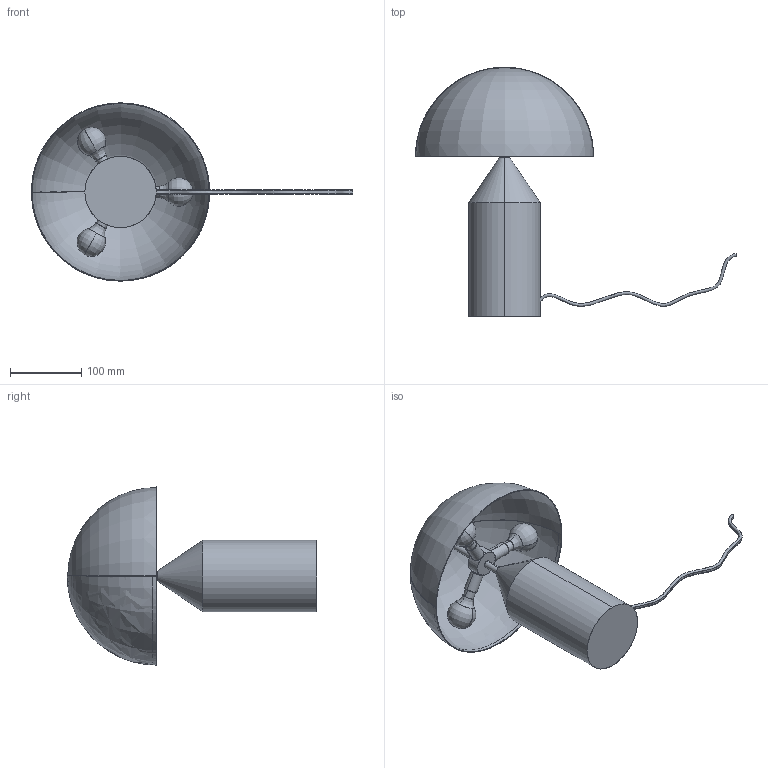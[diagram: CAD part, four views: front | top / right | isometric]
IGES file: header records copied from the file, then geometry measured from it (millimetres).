
Start section: SolidWorks IGES file using analytic representation for surfaces
Global section: file name: F:\李明祥\3D\8月\8月待上传\Atollo Metal Table Lamp-D25XH35.IGS; native system: SolidWorks 2022; preprocessor: SolidWorks 2022; author: MyPC; date: 230827.153029; units: millimetre
Bounding box: 450.47 x 350 x 250 mm (x, y, z)
Surface area: 312198.9 mm2 (no closed solid volume)
Topology: 0 solids, 0 shells, 100 faces, 1404 edges, 1399 vertices
Faces by surface type: revolution 60, bspline 40
